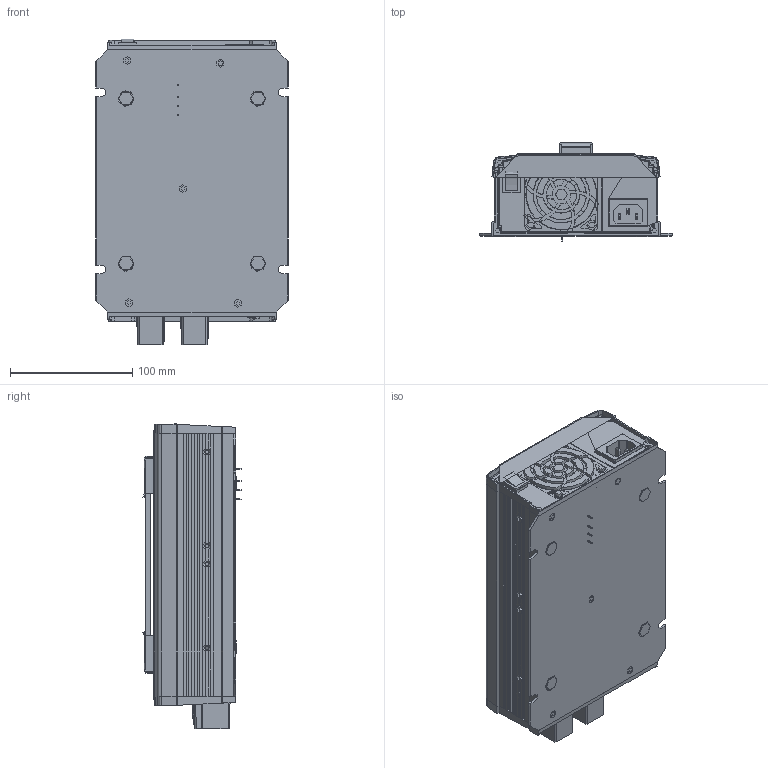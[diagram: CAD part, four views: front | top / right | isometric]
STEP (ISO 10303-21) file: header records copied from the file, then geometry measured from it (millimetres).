
FILE_DESCRIPTION(('Creo Elements/Direct Modeling STEP Export'),'2;1');
FILE_NAME('NPB-750.stp','2021-12-28T11:21:29',(''),(''),'PTC Creo Elements/Direct Modeling STEP processor for AP214 (Solid Model)','PTC Creo Elements/Direct Modeling 19.0A 04-Oct-2014 (C) Parametric Technology GmbH','');
FILE_SCHEMA(('AUTOMOTIVE_DESIGN { 1 0 10303 214 1 1 1 1 }'));
Length unit declared in the file: millimetre
Products named in the file (121): 1HH156.5x34x0.3; 1HH144x58x0.3; 1HH179x23x0.3; 1HH2NPB-750A; 1HH131x22x0.3; 1HH134x37.6x0.3; 1HH229x54x0.25; 1HH229x54x0.25-1; 1HH2; 1HH149x58x0.3.1; 1HH; TO220-1.2.1.1.1.1.1; TO220-1.2.1.1.1.1; TO220-1.2.1.1; TO220-1.2.1.1.1; TO220-1.2.1.1.1.1.2; TO220-1.2.1.1.1.1.2.1; TO220-1.2.1.1.1.1.2.1.1; TO220-1.2.1.1.1.1.2.1.1.1; TO220-1.2.1.1.1.1.2.1.1.1.1; TO220-1.2.1.1.1.1.2.1.1.1.1.1; GBJ.1; MHS041A; MHS041A.1; MOS; PCBA; PCBB; PCBC; PCB; 温度开关; TU-301-SP-STA715_23.PRT; TN-M10_16.PRT; GP-TU301-Y5S_3.PRT; GP-TU301-Y10L_3.PRT; GP-TU-301-A4_3_1.PRT; GP-TU-301-A4_3_2.PRT; GP-TU-301-A4_3.ASM; GP-TU301-D4_3.PRT; TU-301-SP-STA715-AD4-M10_ASM_5.ASM; TU-301-SP-STA715-AD4-M10_ASM.stp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
Assembly tree (124 placements, depth 6):
  NPB-750
    NPB-750面板-0511
      1xx3npb-750-o-20210511-1.stp
        1xx3npb-750-o-0511_stp
      1xx3NPB-750-I-0507
    NPBPCBB装配1
      FT-63EP.1
      LED1.1
      DP1.1
      DH2L-14
        2.7
        1.7
        2.6
        2.3
        2.4
        2.5
        2.1
        2.2
        1.6
        1.1
        1.2
        1.3
        1.5
        1.4
        p1
    1GG
      585B.1
        585B
      585B
        585B.1
        585B
        585B.2
      1GG4CU-SZ033.1
      1GG4CU-SZ033
      1GG1HS-SZ143-1
      1GG1HS-SZ143
      1GG1HS-SZ126
        PIN2-2.1
        HS-SZ126
      1GG1HS-SZ125
        PIN2-2
        HS-SZ125
      1GG1HS-SZ128
        PIN2-2.2.1
        PIN2-2.2
        HS-SZ128
      1GG1HS-SZ127.2
        PIN2-2.1
        HS-SZ127
    CASE
      __.stp
        _X2_628A624B_X0_.ASM
          GUWEI1_1.PRT
          GUWEI1.PRT
          174.PRT
      FOOT_PAD_7_1.PRT.31  x4
      下盖1
        M3-6L.4
        M3-6L.3
        下盖11
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Bounding box: 158 x 80.35 x 250.42 mm (x, y, z)
Topology: 103 solids, 107 shells, 3621 faces, 9524 edges, 6230 vertices
Faces by surface type: plane 2356, cylinder 800, cone 311, torus 82, bspline 71, extrusion 1
Full cylindrical faces by diameter (mm): 0.063 x1
Entity records: 117396 total; most frequent: CARTESIAN_POINT 26638, ORIENTED_EDGE 18906, DIRECTION 17035, EDGE_CURVE 9438, VECTOR 6527, LINE 6526, VERTEX_POINT 6173, AXIS2_PLACEMENT_3D 5254
